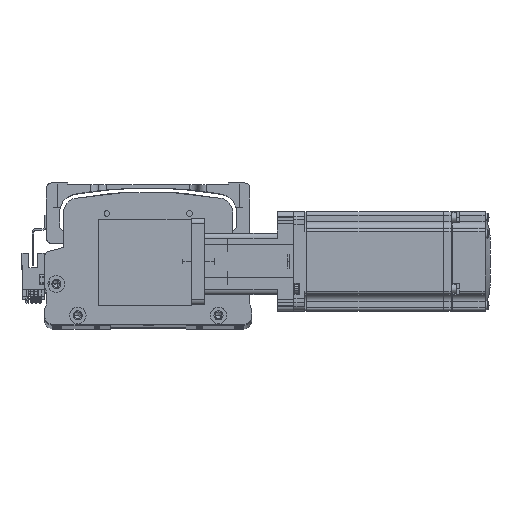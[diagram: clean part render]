
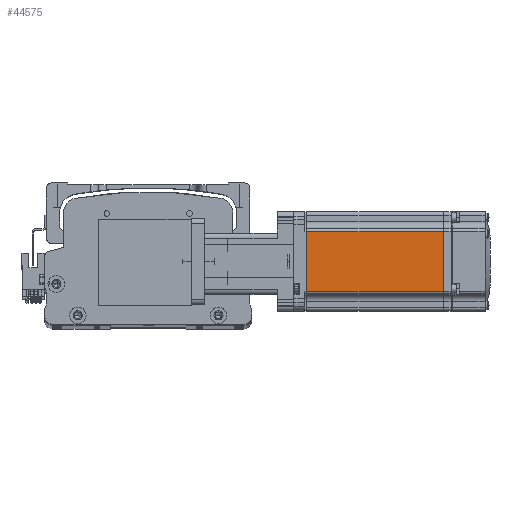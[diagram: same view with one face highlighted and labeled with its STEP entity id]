
A CAD part, top view. The second image highlights one B-rep face of the part: STEP entity #44575.
In plain terms, the highlighted planar face has unit normal (0, 0, 1) as drawn and (0, -1, 0) by its records, which use the part's own axes.
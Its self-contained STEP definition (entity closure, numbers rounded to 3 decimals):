
#1735 = VERTEX_POINT ( 'NONE', #4205 ) ;
#2893 = EDGE_CURVE ( 'NONE', #56983, #43433, #35201, .T. ) ;
#4186 = EDGE_CURVE ( 'NONE', #1735, #45644, #18030, .T. ) ;
#4205 = CARTESIAN_POINT ( 'NONE',  ( -7.75, -30., 18. ) ) ;
#10877 = CARTESIAN_POINT ( 'NONE',  ( -6.5, -30., 18. ) ) ;
#18030 = LINE ( 'NONE', #50518, #29604 ) ;
#20548 = VECTOR ( 'NONE', #61526, 1000. ) ;
#20680 = VECTOR ( 'NONE', #37139, 1000. ) ;
#21801 = AXIS2_PLACEMENT_3D ( 'NONE', #22538, #56996, #27464 ) ;
#22319 = PLANE ( 'NONE',  #21801 ) ;
#22538 = CARTESIAN_POINT ( 'NONE',  ( -6.5, -30., -25. ) ) ;
#22566 = FACE_OUTER_BOUND ( 'NONE', #59965, .T. ) ;
#27085 = CARTESIAN_POINT ( 'NONE',  ( -90.45, -30., 0. ) ) ;
#27464 = DIRECTION ( 'NONE',  ( 0., 0., -1. ) ) ;
#29604 = VECTOR ( 'NONE', #35900, 1000. ) ;
#29872 = ORIENTED_EDGE ( 'NONE', *, *, #4186, .F. ) ;
#31789 = ORIENTED_EDGE ( 'NONE', *, *, #2893, .T. ) ;
#33766 = LINE ( 'NONE', #56768, #20680 ) ;
#33987 = LINE ( 'NONE', #10877, #35562 ) ;
#35201 = LINE ( 'NONE', #27085, #20548 ) ;
#35562 = VECTOR ( 'NONE', #40374, 1000. ) ;
#35900 = DIRECTION ( 'NONE',  ( 0., 0., -1. ) ) ;
#36812 = EDGE_CURVE ( 'NONE', #45644, #43433, #33766, .T. ) ;
#37139 = DIRECTION ( 'NONE',  ( -1., 0., 0. ) ) ;
#40374 = DIRECTION ( 'NONE',  ( -1., 0., 0. ) ) ;
#43433 = VERTEX_POINT ( 'NONE', #57158 ) ;
#44575 = ADVANCED_FACE ( 'NONE', ( #22566 ), #22319, .T. ) ;
#45213 = EDGE_CURVE ( 'NONE', #1735, #56983, #33987, .T. ) ;
#45644 = VERTEX_POINT ( 'NONE', #58843 ) ;
#47957 = ORIENTED_EDGE ( 'NONE', *, *, #45213, .T. ) ;
#50518 = CARTESIAN_POINT ( 'NONE',  ( -7.75, -30., 0. ) ) ;
#55068 = ORIENTED_EDGE ( 'NONE', *, *, #36812, .F. ) ;
#56547 = CARTESIAN_POINT ( 'NONE',  ( -90.45, -30., 18. ) ) ;
#56768 = CARTESIAN_POINT ( 'NONE',  ( -6.5, -30., -18. ) ) ;
#56983 = VERTEX_POINT ( 'NONE', #56547 ) ;
#56996 = DIRECTION ( 'NONE',  ( 0., -1., 0. ) ) ;
#57158 = CARTESIAN_POINT ( 'NONE',  ( -90.45, -30., -18. ) ) ;
#58843 = CARTESIAN_POINT ( 'NONE',  ( -7.75, -30., -18. ) ) ;
#59965 = EDGE_LOOP ( 'NONE', ( #29872, #47957, #31789, #55068 ) ) ;
#61526 = DIRECTION ( 'NONE',  ( 0., 0., -1. ) ) ;
